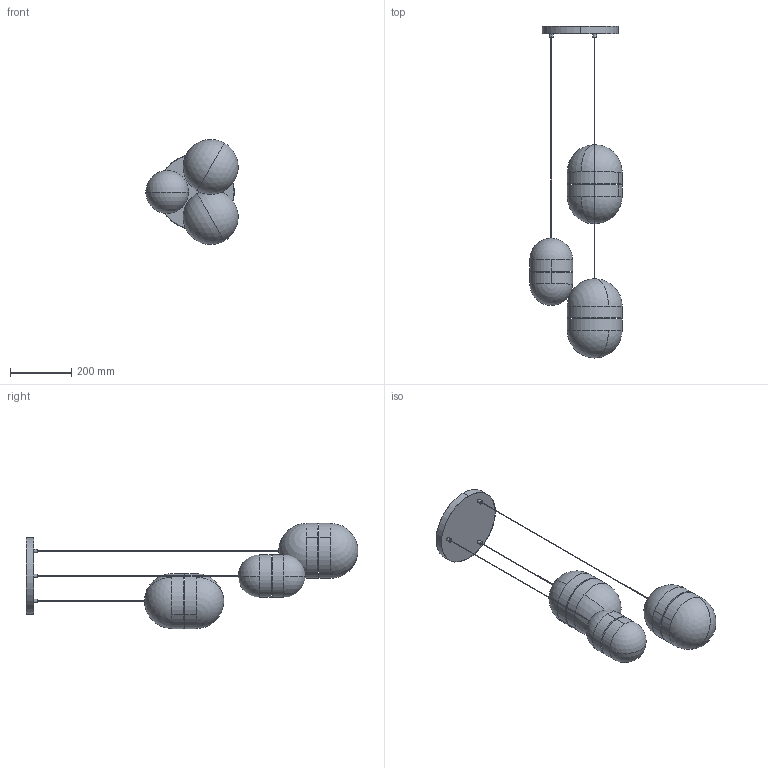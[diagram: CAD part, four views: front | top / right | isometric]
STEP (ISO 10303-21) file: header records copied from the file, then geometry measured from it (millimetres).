
FILE_DESCRIPTION (( 'STEP AP203' ), '1' );
FILE_NAME ('YUM Pendant Light-3heads.STEP', '2025-12-04T01:03:03', ( '' ), ( '' ), 'SwSTEP 2.0', 'SolidWorks 2022', '' );
FILE_SCHEMA (( 'CONFIG_CONTROL_DESIGN' ));
Length unit declared in the file: millimetre
Products named in the file (1): YUM Pendant Light-3heads
Bounding box: 302.5 x 1088.43 x 344.54 mm (x, y, z)
Volume: 12797657.4 mm3; surface area: 740455.9 mm2
Topology: 16 solids, 16 shells, 76 faces, 150 edges, 95 vertices
Faces by surface type: cylinder 34, plane 24, sphere 18
Entity records: 1985 total; most frequent: DIRECTION 396, CARTESIAN_POINT 310, ORIENTED_EDGE 276, AXIS2_PLACEMENT_3D 181, EDGE_CURVE 138, CIRCLE 104, VERTEX_POINT 95, EDGE_LOOP 77
